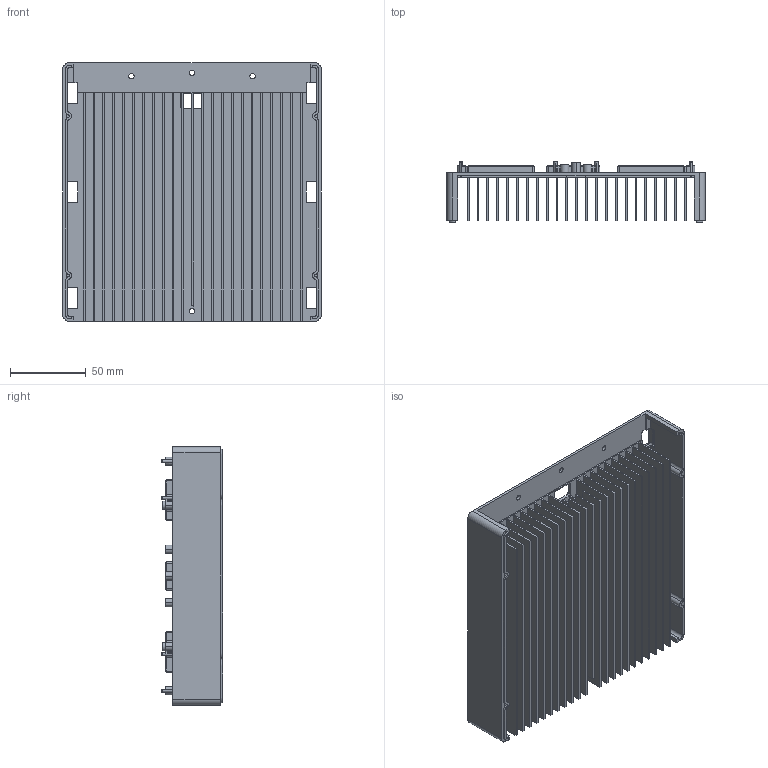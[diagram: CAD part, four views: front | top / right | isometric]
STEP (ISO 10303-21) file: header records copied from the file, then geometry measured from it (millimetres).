
FILE_DESCRIPTION((''),'2;1');
FILE_NAME('BOTTOM_1','2024-12-18T',('18137'),(''),'CREO PARAMETRIC BY PTC INC, 2016050','CREO PARAMETRIC BY PTC INC, 2016050','');
FILE_SCHEMA(('CONFIG_CONTROL_DESIGN'));
Length unit declared in the file: millimetre
Products named in the file (1): BOTTOM_1
Bounding box: 170 x 40.3 x 170 mm (x, y, z)
Volume: 256787.2 mm3; surface area: 285229.4 mm2
Topology: 1 solids, 1 shells, 635 faces, 1751 edges, 1142 vertices
Faces by surface type: plane 347, cylinder 248, cone 24, torus 16
Entity records: 20388 total; most frequent: DIRECTION 3640, CARTESIAN_POINT 3541, ORIENTED_EDGE 3502, EDGE_CURVE 1751, AXIS2_PLACEMENT_3D 1257, VERTEX_POINT 1142, VECTOR 1126, LINE 1126
